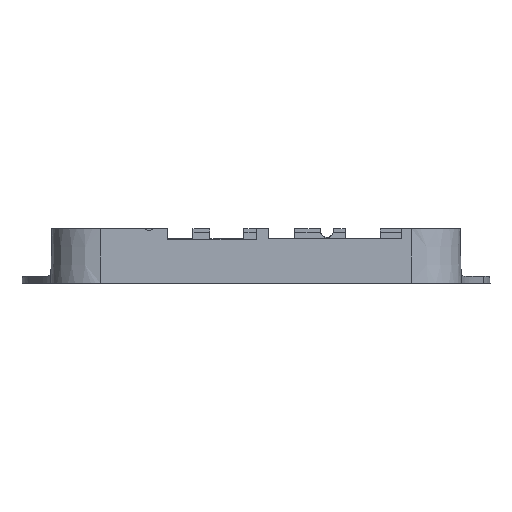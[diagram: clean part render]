
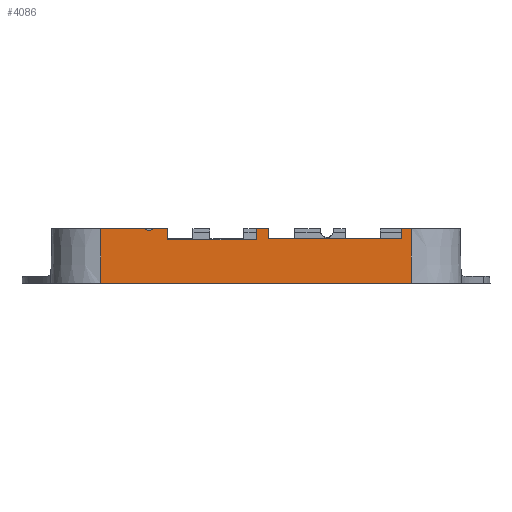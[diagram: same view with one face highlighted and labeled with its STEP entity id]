
A CAD part, left-side view. The second image highlights one B-rep face of the part: STEP entity #4086.
In plain terms, the highlighted planar face has unit normal (-1, 0, 0.017).
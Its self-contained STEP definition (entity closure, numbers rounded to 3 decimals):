
#125=ELLIPSE('',#4444,1.75,1.75);
#305=PLANE('',#4443);
#509=FACE_OUTER_BOUND('',#726,.T.);
#726=EDGE_LOOP('',(#3418,#3419,#3420,#3421,#3422,#3423,#3424,#3425,#3426,
#3427,#3428,#3429,#3430,#3431));
#875=LINE('',#6557,#1271);
#967=LINE('',#6885,#1363);
#1023=LINE('',#7184,#1419);
#1026=LINE('',#7193,#1422);
#1058=LINE('',#7283,#1454);
#1059=LINE('',#7285,#1455);
#1060=LINE('',#7287,#1456);
#1061=LINE('',#7289,#1457);
#1062=LINE('',#7291,#1458);
#1063=LINE('',#7293,#1459);
#1064=LINE('',#7295,#1460);
#1065=LINE('',#7297,#1461);
#1066=LINE('',#7300,#1462);
#1271=VECTOR('',#4692,10.);
#1363=VECTOR('',#4982,10.001);
#1419=VECTOR('',#5214,10.001);
#1422=VECTOR('',#5221,10.);
#1454=VECTOR('',#5295,10.);
#1455=VECTOR('',#5296,10.);
#1456=VECTOR('',#5297,10.);
#1457=VECTOR('',#5298,10.);
#1458=VECTOR('',#5299,10.);
#1459=VECTOR('',#5300,10.);
#1460=VECTOR('',#5301,10.);
#1461=VECTOR('',#5302,10.);
#1462=VECTOR('',#5305,10.);
#1751=VERTEX_POINT('',#6554);
#1752=VERTEX_POINT('',#6556);
#1883=VERTEX_POINT('',#6884);
#1954=VERTEX_POINT('',#7182);
#1958=VERTEX_POINT('',#7191);
#1989=VERTEX_POINT('',#7282);
#1990=VERTEX_POINT('',#7284);
#1991=VERTEX_POINT('',#7286);
#1992=VERTEX_POINT('',#7288);
#1993=VERTEX_POINT('',#7290);
#1994=VERTEX_POINT('',#7292);
#1995=VERTEX_POINT('',#7294);
#1996=VERTEX_POINT('',#7296);
#1997=VERTEX_POINT('',#7298);
#2192=EDGE_CURVE('',#1752,#1751,#875,.T.);
#2354=EDGE_CURVE('',#1752,#1883,#967,.T.);
#2472=EDGE_CURVE('',#1954,#1751,#1023,.T.);
#2476=EDGE_CURVE('',#1958,#1954,#1026,.F.);
#2519=EDGE_CURVE('',#1958,#1989,#1058,.F.);
#2520=EDGE_CURVE('',#1989,#1990,#1059,.T.);
#2521=EDGE_CURVE('',#1990,#1991,#1060,.F.);
#2522=EDGE_CURVE('',#1991,#1992,#1061,.T.);
#2523=EDGE_CURVE('',#1992,#1993,#1062,.F.);
#2524=EDGE_CURVE('',#1993,#1994,#1063,.T.);
#2525=EDGE_CURVE('',#1994,#1995,#1064,.F.);
#2526=EDGE_CURVE('',#1995,#1996,#1065,.T.);
#2527=EDGE_CURVE('',#1996,#1997,#125,.F.);
#2528=EDGE_CURVE('',#1883,#1997,#1066,.F.);
#3418=ORIENTED_EDGE('',*,*,#2472,.F.);
#3419=ORIENTED_EDGE('',*,*,#2476,.F.);
#3420=ORIENTED_EDGE('',*,*,#2519,.T.);
#3421=ORIENTED_EDGE('',*,*,#2520,.T.);
#3422=ORIENTED_EDGE('',*,*,#2521,.T.);
#3423=ORIENTED_EDGE('',*,*,#2522,.T.);
#3424=ORIENTED_EDGE('',*,*,#2523,.T.);
#3425=ORIENTED_EDGE('',*,*,#2524,.T.);
#3426=ORIENTED_EDGE('',*,*,#2525,.T.);
#3427=ORIENTED_EDGE('',*,*,#2526,.T.);
#3428=ORIENTED_EDGE('',*,*,#2527,.T.);
#3429=ORIENTED_EDGE('',*,*,#2528,.F.);
#3430=ORIENTED_EDGE('',*,*,#2354,.F.);
#3431=ORIENTED_EDGE('',*,*,#2192,.T.);
#4086=ADVANCED_FACE('',(#509),#305,.T.);
#4443=AXIS2_PLACEMENT_3D('',#7281,#5293,#5294);
#4444=AXIS2_PLACEMENT_3D('',#7299,#5303,#5304);
#4692=DIRECTION('',(0.,-1.,0.));
#4982=DIRECTION('',(0.017,0.001,1.));
#5214=DIRECTION('',(-0.017,0.001,-1.));
#5221=DIRECTION('',(0.,1.,0.));
#5293=DIRECTION('center_axis',(-1.,0.,
0.017));
#5294=DIRECTION('ref_axis',(0.,-1.,0.));
#5295=DIRECTION('',(0.017,0.,1.));
#5296=DIRECTION('',(0.,1.,0.));
#5297=DIRECTION('',(-0.017,0.,-1.));
#5298=DIRECTION('',(0.,1.,0.));
#5299=DIRECTION('',(0.017,0.,1.));
#5300=DIRECTION('',(0.,1.,0.));
#5301=DIRECTION('',(-0.017,0.,-1.));
#5302=DIRECTION('',(0.,1.,0.));
#5303=DIRECTION('center_axis',(-1.,0.,
0.017));
#5304=DIRECTION('ref_axis',(0.017,0.,1.));
#5305=DIRECTION('',(0.,1.,0.));
#6554=CARTESIAN_POINT('',(-3.459,10.287,-14.));
#6556=CARTESIAN_POINT('',(-3.459,95.504,-14.));
#6557=CARTESIAN_POINT('',(-3.459,74.183,-14.));
#6884=CARTESIAN_POINT('',(-3.209,95.522,1.083));
#6885=CARTESIAN_POINT('',(-3.311,95.515,-5.062));
#7182=CARTESIAN_POINT('',(-3.209,10.269,1.083));
#7184=CARTESIAN_POINT('',(-3.316,10.277,-5.386));
#7191=CARTESIAN_POINT('',(-3.209,12.843,1.083));
#7193=CARTESIAN_POINT('',(-3.209,74.183,1.083));
#7281=CARTESIAN_POINT('Origin',(-3.227,95.471,0.001));
#7282=CARTESIAN_POINT('',(-3.255,12.843,-1.684));
#7283=CARTESIAN_POINT('',(-3.241,12.843,-0.859));
#7284=CARTESIAN_POINT('',(-3.255,49.405,-1.684));
#7285=CARTESIAN_POINT('',(-3.255,67.992,-1.684));
#7286=CARTESIAN_POINT('',(-3.209,49.405,1.083));
#7287=CARTESIAN_POINT('',(-3.238,49.405,-0.662));
#7288=CARTESIAN_POINT('',(-3.209,52.802,1.083));
#7289=CARTESIAN_POINT('',(-3.209,74.183,1.083));
#7290=CARTESIAN_POINT('',(-3.26,52.802,-1.984));
#7291=CARTESIAN_POINT('',(-3.241,52.802,-0.832));
#7292=CARTESIAN_POINT('',(-3.26,77.183,-1.984));
#7293=CARTESIAN_POINT('',(-3.26,82.853,-1.984));
#7294=CARTESIAN_POINT('',(-3.209,77.183,1.083));
#7295=CARTESIAN_POINT('',(-3.24,77.183,-0.758));
#7296=CARTESIAN_POINT('',(-3.209,81.099,1.083));
#7297=CARTESIAN_POINT('',(-3.209,74.183,1.083));
#7298=CARTESIAN_POINT('',(-3.209,83.501,1.083));
#7299=CARTESIAN_POINT('Origin',(-3.188,82.3,2.356));
#7300=CARTESIAN_POINT('',(-3.209,74.183,1.083));
